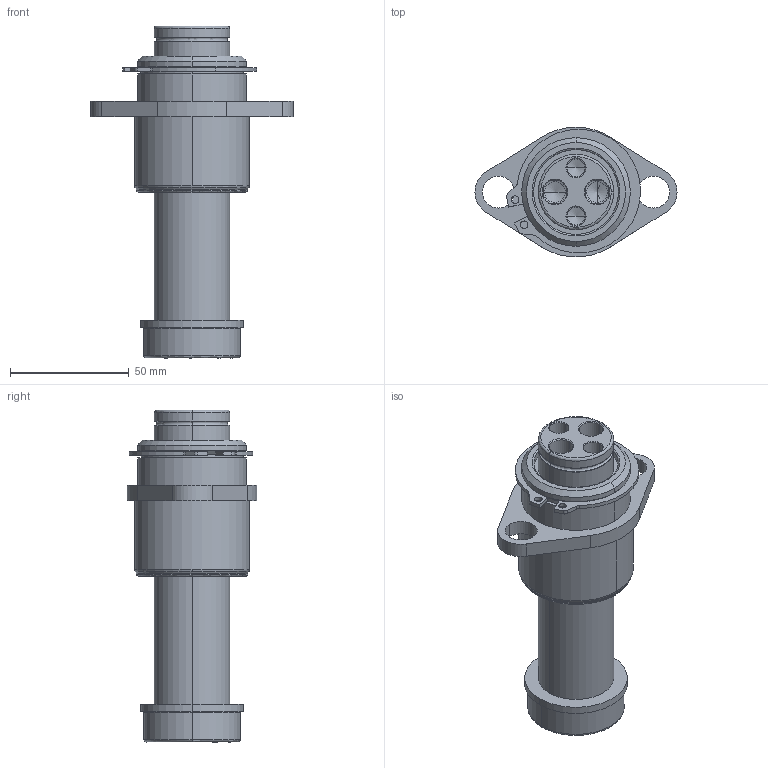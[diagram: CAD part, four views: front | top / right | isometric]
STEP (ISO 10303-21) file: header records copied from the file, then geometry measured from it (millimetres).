
FILE_DESCRIPTION (( 'STEP AP214' ), '1' );
FILE_NAME ('GK120-N2-1-BP-M-XXX.STEP', '2020-09-21T16:11:41', ( '' ), ( '' ), 'SwSTEP 2.0', 'SolidWorks 2017', '' );
FILE_SCHEMA (( 'AUTOMOTIVE_DESIGN' ));
Length unit declared in the file: inch
Products named in the file (7): GK1.25-N2-1-BP-Base; GK120-N2-1-BP-M-XXX; GK120-M-XXX-GuidePin; GK120-DampeningWasher; RetainingRing
Assembly tree (6 placements, depth 3):
  GK120-N2-1-BP-M-XXX
    GK1.25-N2-1-BP-Base
      GK1.25-N2-1-BP-Base
      RetainingRing
    GK120-M-XXX-GuidePin
      GK120-M-XXX-GuidePin
      GK120-DampeningWasher
Bounding box: 85.09 x 54.52 x 139.7 mm (x, y, z)
Volume: 173529.5 mm3; surface area: 42464.8 mm2
Topology: 4 solids, 4 shells, 151 faces, 349 edges, 212 vertices
Faces by surface type: cylinder 67, bspline 30, cone 30, plane 24
Entity records: 5868 total; most frequent: CARTESIAN_POINT 1979, DIRECTION 753, ORIENTED_EDGE 682, EDGE_CURVE 341, AXIS2_PLACEMENT_3D 310, VERTEX_POINT 212, CIRCLE 178, EDGE_LOOP 177
